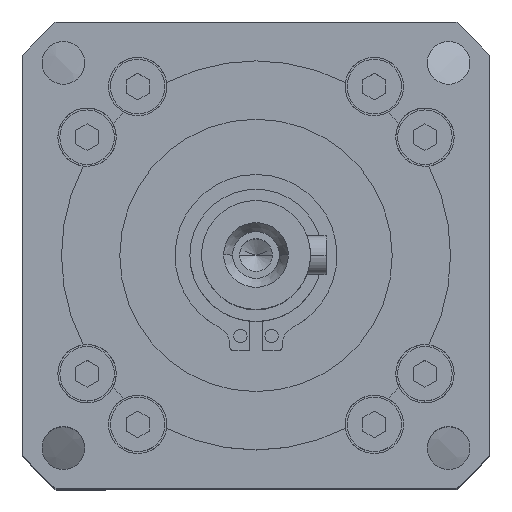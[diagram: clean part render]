
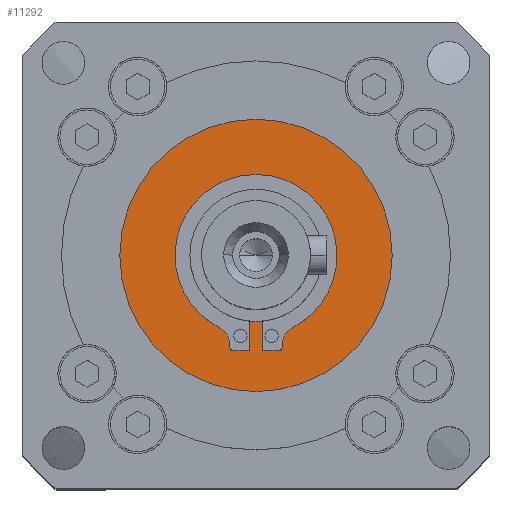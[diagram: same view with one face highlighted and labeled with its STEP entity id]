
A CAD part, top view. The second image highlights one B-rep face of the part: STEP entity #11292.
In plain terms, the highlighted planar face has unit normal (0, 0, 1).
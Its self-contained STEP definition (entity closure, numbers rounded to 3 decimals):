
#86 = LINE ( 'NONE', #12585, #5221 ) ;
#138 = AXIS2_PLACEMENT_3D ( 'NONE', #9329, #9306, #9301 ) ;
#393 = EDGE_CURVE ( 'NONE', #13658, #14899, #6320, .T. ) ;
#524 = DIRECTION ( 'NONE',  ( 0., 0., 1. ) ) ;
#595 = ORIENTED_EDGE ( 'NONE', *, *, #23518, .F. ) ;
#711 = CARTESIAN_POINT ( 'NONE',  ( -0.85, 0., -1. ) ) ;
#736 = DIRECTION ( 'NONE',  ( 0., 1., 0. ) ) ;
#782 = ORIENTED_EDGE ( 'NONE', *, *, #10695, .F. ) ;
#978 = ORIENTED_EDGE ( 'NONE', *, *, #26990, .F. ) ;
#1025 = DIRECTION ( 'NONE',  ( -1., 0., 0. ) ) ;
#1054 = DIRECTION ( 'NONE',  ( 0., 0., 1. ) ) ;
#1072 = CARTESIAN_POINT ( 'NONE',  ( 0., 0., -1. ) ) ;
#1292 = CARTESIAN_POINT ( 'NONE',  ( -3.35, -11.757, -1. ) ) ;
#1327 = EDGE_CURVE ( 'NONE', #15351, #13658, #12053, .T. ) ;
#1483 = VERTEX_POINT ( 'NONE', #25091 ) ;
#1775 = CIRCLE ( 'NONE', #138, 10.4 ) ;
#1996 = CARTESIAN_POINT ( 'NONE',  ( 17.5, 0., -1. ) ) ;
#2927 = EDGE_CURVE ( 'NONE', #1483, #25672, #22282, .T. ) ;
#2936 = EDGE_CURVE ( 'NONE', #14899, #1483, #26090, .T. ) ;
#2960 = CARTESIAN_POINT ( 'NONE',  ( 0., -12.257, -1. ) ) ;
#3150 = CARTESIAN_POINT ( 'NONE',  ( 3.35, -11.497, -1. ) ) ;
#3311 = CARTESIAN_POINT ( 'NONE',  ( -2.85, -12.257, -1. ) ) ;
#3661 = DIRECTION ( 'NONE',  ( 0., 0., 1. ) ) ;
#3878 = VERTEX_POINT ( 'NONE', #23674 ) ;
#4063 = DIRECTION ( 'NONE',  ( 1., 0., 0. ) ) ;
#4181 = VECTOR ( 'NONE', #14235, 1000. ) ;
#4470 = VERTEX_POINT ( 'NONE', #14774 ) ;
#4526 = ORIENTED_EDGE ( 'NONE', *, *, #2927, .F. ) ;
#4531 = DIRECTION ( 'NONE',  ( 1., 0., 0. ) ) ;
#4543 = CARTESIAN_POINT ( 'NONE',  ( 0., -12.257, -1. ) ) ;
#4587 = AXIS2_PLACEMENT_3D ( 'NONE', #1072, #1054, #1025 ) ;
#5092 = VERTEX_POINT ( 'NONE', #3150 ) ;
#5136 = CARTESIAN_POINT ( 'NONE',  ( 0.85, 0., -1. ) ) ;
#5221 = VECTOR ( 'NONE', #14723, 1000. ) ;
#5236 = VECTOR ( 'NONE', #4531, 1000. ) ;
#5258 = CIRCLE ( 'NONE', #10279, 10.4 ) ;
#5580 = CARTESIAN_POINT ( 'NONE',  ( 4.716, -9.269, -1. ) ) ;
#5808 = VERTEX_POINT ( 'NONE', #26416 ) ;
#5874 = DIRECTION ( 'NONE',  ( -1., 0., 0. ) ) ;
#5904 = DIRECTION ( 'NONE',  ( 0., 0., 1. ) ) ;
#5933 = CARTESIAN_POINT ( 'NONE',  ( 0., 0., -1. ) ) ;
#6283 = AXIS2_PLACEMENT_3D ( 'NONE', #16286, #16257, #16253 ) ;
#6320 = LINE ( 'NONE', #4543, #5236 ) ;
#6471 = CARTESIAN_POINT ( 'NONE',  ( -3.35, -11.497, -1. ) ) ;
#6697 = LINE ( 'NONE', #2960, #22544 ) ;
#7374 = DIRECTION ( 'NONE',  ( 0., -1., 0. ) ) ;
#7807 = EDGE_CURVE ( 'NONE', #16820, #4470, #5258, .T. ) ;
#8439 = DIRECTION ( 'NONE',  ( 0., 0., -1. ) ) ;
#8473 = CARTESIAN_POINT ( 'NONE',  ( 0., 0., -1. ) ) ;
#8893 = AXIS2_PLACEMENT_3D ( 'NONE', #8473, #23411, #10672 ) ;
#9301 = DIRECTION ( 'NONE',  ( -1., 0., 0. ) ) ;
#9306 = DIRECTION ( 'NONE',  ( 0., 0., 1. ) ) ;
#9308 = AXIS2_PLACEMENT_3D ( 'NONE', #27147, #27094, #27062 ) ;
#9329 = CARTESIAN_POINT ( 'NONE',  ( 0., 0., -1. ) ) ;
#9412 = ORIENTED_EDGE ( 'NONE', *, *, #1327, .F. ) ;
#9981 = CARTESIAN_POINT ( 'NONE',  ( -3.35, 0., -1. ) ) ;
#9984 = VERTEX_POINT ( 'NONE', #24599 ) ;
#10279 = AXIS2_PLACEMENT_3D ( 'NONE', #22133, #524, #20076 ) ;
#10319 = EDGE_CURVE ( 'NONE', #3878, #24933, #26285, .T. ) ;
#10672 = DIRECTION ( 'NONE',  ( 1., 0., 0. ) ) ;
#10695 = EDGE_CURVE ( 'NONE', #26832, #9984, #15733, .T. ) ;
#11292 = ADVANCED_FACE ( 'NONE', ( #25516, #17072 ), #27669, .F. ) ;
#11762 = CARTESIAN_POINT ( 'NONE',  ( -5.85, -11.497, -1. ) ) ;
#11953 = ORIENTED_EDGE ( 'NONE', *, *, #7807, .F. ) ;
#12053 = CIRCLE ( 'NONE', #9308, 0.5 ) ;
#12326 = ORIENTED_EDGE ( 'NONE', *, *, #10319, .F. ) ;
#12585 = CARTESIAN_POINT ( 'NONE',  ( 3.35, 0., -1. ) ) ;
#12689 = EDGE_CURVE ( 'NONE', #24071, #3878, #6697, .T. ) ;
#13035 = AXIS2_PLACEMENT_3D ( 'NONE', #16707, #3661, #18829 ) ;
#13038 = ORIENTED_EDGE ( 'NONE', *, *, #18410, .F. ) ;
#13402 = EDGE_CURVE ( 'NONE', #9984, #16820, #1775, .T. ) ;
#13658 = VERTEX_POINT ( 'NONE', #3311 ) ;
#13915 = DIRECTION ( 'NONE',  ( -1., 0., 0. ) ) ;
#14235 = DIRECTION ( 'NONE',  ( 0., -1., 0. ) ) ;
#14723 = DIRECTION ( 'NONE',  ( 0., 1., 0. ) ) ;
#14774 = CARTESIAN_POINT ( 'NONE',  ( -4.716, -9.269, -1. ) ) ;
#14899 = VERTEX_POINT ( 'NONE', #25010 ) ;
#14931 = VECTOR ( 'NONE', #736, 1000. ) ;
#15196 = DIRECTION ( 'NONE',  ( 0., 0., -1. ) ) ;
#15351 = VERTEX_POINT ( 'NONE', #1292 ) ;
#15435 = AXIS2_PLACEMENT_3D ( 'NONE', #5933, #5904, #5874 ) ;
#15436 = ORIENTED_EDGE ( 'NONE', *, *, #23722, .F. ) ;
#15547 = CARTESIAN_POINT ( 'NONE',  ( 0.85, -12.257, -1. ) ) ;
#15733 = CIRCLE ( 'NONE', #15435, 10.4 ) ;
#16009 = CIRCLE ( 'NONE', #13035, 17.5 ) ;
#16253 = DIRECTION ( 'NONE',  ( -1., 0., 0. ) ) ;
#16257 = DIRECTION ( 'NONE',  ( 0., 0., 1. ) ) ;
#16286 = CARTESIAN_POINT ( 'NONE',  ( 2.85, -11.757, -1. ) ) ;
#16418 = AXIS2_PLACEMENT_3D ( 'NONE', #21317, #8439, #23384 ) ;
#16626 = ORIENTED_EDGE ( 'NONE', *, *, #19148, .T. ) ;
#16635 = CARTESIAN_POINT ( 'NONE',  ( 0., 0., -1. ) ) ;
#16707 = CARTESIAN_POINT ( 'NONE',  ( 0., 0., -1. ) ) ;
#16820 = VERTEX_POINT ( 'NONE', #18675 ) ;
#17072 = FACE_OUTER_BOUND ( 'NONE', #25458, .T. ) ;
#17073 = CARTESIAN_POINT ( 'NONE',  ( 0.85, -8.457, -1. ) ) ;
#17103 = VERTEX_POINT ( 'NONE', #6471 ) ;
#18410 = EDGE_CURVE ( 'NONE', #17103, #15351, #20778, .T. ) ;
#18675 = CARTESIAN_POINT ( 'NONE',  ( -10.4, 0., -1. ) ) ;
#18829 = DIRECTION ( 'NONE',  ( 1., 0., 0. ) ) ;
#18837 = EDGE_LOOP ( 'NONE', ( #20099, #9412, #13038, #15436, #11953, #24132, #782, #595, #978, #12326, #21728, #20186, #4526, #26125 ) ) ;
#19148 = EDGE_CURVE ( 'NONE', #26095, #5808, #25555, .T. ) ;
#19261 = DIRECTION ( 'NONE',  ( -1., 0., 0. ) ) ;
#19424 = ORIENTED_EDGE ( 'NONE', *, *, #22910, .T. ) ;
#20076 = DIRECTION ( 'NONE',  ( -1., 0., 0. ) ) ;
#20099 = ORIENTED_EDGE ( 'NONE', *, *, #393, .F. ) ;
#20186 = ORIENTED_EDGE ( 'NONE', *, *, #24561, .F. ) ;
#20778 = LINE ( 'NONE', #9981, #4181 ) ;
#21080 = AXIS2_PLACEMENT_3D ( 'NONE', #11762, #26492, #13915 ) ;
#21148 = VECTOR ( 'NONE', #7374, 1000. ) ;
#21317 = CARTESIAN_POINT ( 'NONE',  ( 5.85, -11.497, -1. ) ) ;
#21728 = ORIENTED_EDGE ( 'NONE', *, *, #12689, .F. ) ;
#21838 = LINE ( 'NONE', #5136, #21148 ) ;
#22133 = CARTESIAN_POINT ( 'NONE',  ( 0., 0., -1. ) ) ;
#22282 = CIRCLE ( 'NONE', #4587, 8.5 ) ;
#22315 = CARTESIAN_POINT ( 'NONE',  ( 3.35, -11.757, -1. ) ) ;
#22544 = VECTOR ( 'NONE', #4063, 1000. ) ;
#22879 = CIRCLE ( 'NONE', #21080, 2.5 ) ;
#22910 = EDGE_CURVE ( 'NONE', #5808, #26095, #16009, .T. ) ;
#23384 = DIRECTION ( 'NONE',  ( -1., 0., 0. ) ) ;
#23411 = DIRECTION ( 'NONE',  ( 0., 0., 1. ) ) ;
#23518 = EDGE_CURVE ( 'NONE', #5092, #26832, #26751, .T. ) ;
#23674 = CARTESIAN_POINT ( 'NONE',  ( 2.85, -12.257, -1. ) ) ;
#23722 = EDGE_CURVE ( 'NONE', #4470, #17103, #22879, .T. ) ;
#24071 = VERTEX_POINT ( 'NONE', #15547 ) ;
#24132 = ORIENTED_EDGE ( 'NONE', *, *, #13402, .F. ) ;
#24561 = EDGE_CURVE ( 'NONE', #25672, #24071, #21838, .T. ) ;
#24599 = CARTESIAN_POINT ( 'NONE',  ( 10.4, 0., -1. ) ) ;
#24933 = VERTEX_POINT ( 'NONE', #22315 ) ;
#25010 = CARTESIAN_POINT ( 'NONE',  ( -0.85, -12.257, -1. ) ) ;
#25091 = CARTESIAN_POINT ( 'NONE',  ( -0.85, -8.457, -1. ) ) ;
#25458 = EDGE_LOOP ( 'NONE', ( #16626, #19424 ) ) ;
#25516 = FACE_BOUND ( 'NONE', #18837, .T. ) ;
#25555 = CIRCLE ( 'NONE', #8893, 17.5 ) ;
#25672 = VERTEX_POINT ( 'NONE', #17073 ) ;
#26090 = LINE ( 'NONE', #711, #14931 ) ;
#26095 = VERTEX_POINT ( 'NONE', #1996 ) ;
#26125 = ORIENTED_EDGE ( 'NONE', *, *, #2936, .F. ) ;
#26285 = CIRCLE ( 'NONE', #6283, 0.5 ) ;
#26416 = CARTESIAN_POINT ( 'NONE',  ( -17.5, 0., -1. ) ) ;
#26492 = DIRECTION ( 'NONE',  ( 0., 0., -1. ) ) ;
#26751 = CIRCLE ( 'NONE', #16418, 2.5 ) ;
#26832 = VERTEX_POINT ( 'NONE', #5580 ) ;
#26990 = EDGE_CURVE ( 'NONE', #24933, #5092, #86, .T. ) ;
#27062 = DIRECTION ( 'NONE',  ( -1., 0., 0. ) ) ;
#27094 = DIRECTION ( 'NONE',  ( 0., 0., 1. ) ) ;
#27147 = CARTESIAN_POINT ( 'NONE',  ( -2.85, -11.757, -1. ) ) ;
#27328 = AXIS2_PLACEMENT_3D ( 'NONE', #16635, #15196, #19261 ) ;
#27669 = PLANE ( 'NONE',  #27328 ) ;
